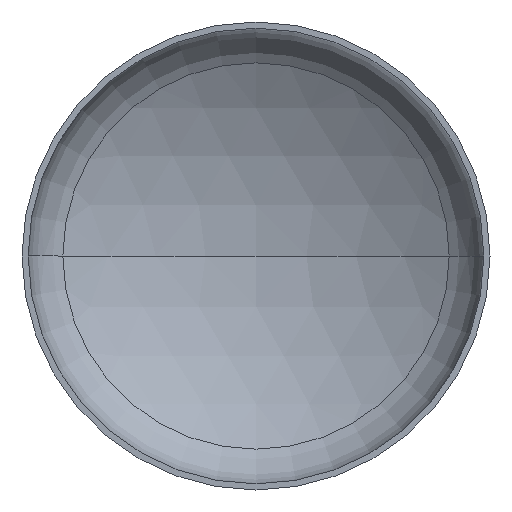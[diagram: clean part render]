
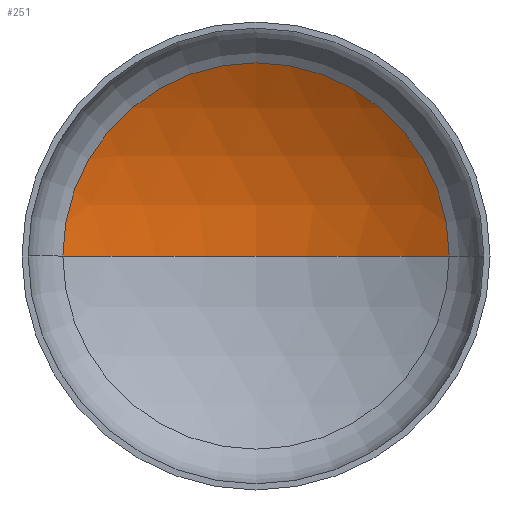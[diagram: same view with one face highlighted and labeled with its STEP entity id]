
A CAD part, front view. The second image highlights one B-rep face of the part: STEP entity #251.
In plain terms, the highlighted spherical face has radius 2560 mm.
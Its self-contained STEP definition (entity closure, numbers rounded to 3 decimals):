
#22 = AXIS2_PLACEMENT_3D ( 'NONE', #222, #380, #169 ) ;
#23 = EDGE_LOOP ( 'NONE', ( #102, #49, #41 ) ) ;
#25 = AXIS2_PLACEMENT_3D ( 'NONE', #196, #108, #361 ) ;
#26 = AXIS2_PLACEMENT_3D ( 'NONE', #166, #177, #345 ) ;
#33 = VERTEX_POINT ( 'NONE', #360 ) ;
#41 = ORIENTED_EDGE ( 'NONE', *, *, #339, .T. ) ;
#42 = AXIS2_PLACEMENT_3D ( 'NONE', #253, #381, #261 ) ;
#49 = ORIENTED_EDGE ( 'NONE', *, *, #346, .T. ) ;
#97 = VERTEX_POINT ( 'NONE', #328 ) ;
#102 = ORIENTED_EDGE ( 'NONE', *, *, #352, .F. ) ;
#108 = DIRECTION ( 'NONE',  ( 0., 0., 1. ) ) ;
#143 = VERTEX_POINT ( 'NONE', #343 ) ;
#166 = CARTESIAN_POINT ( 'NONE',  ( 0., 549.746, 0. ) ) ;
#167 = CIRCLE ( 'NONE', #25, 2560. ) ;
#169 = DIRECTION ( 'NONE',  ( -1., 0., 0. ) ) ;
#177 = DIRECTION ( 'NONE',  ( 0., -1., 0. ) ) ;
#196 = CARTESIAN_POINT ( 'NONE',  ( 0., -1643.211, 0. ) ) ;
#222 = CARTESIAN_POINT ( 'NONE',  ( 0., -1643.211, 0. ) ) ;
#240 = CIRCLE ( 'NONE', #26, 1320.812 ) ;
#251 = ADVANCED_FACE ( 'NONE', ( #374 ), #304, .F. ) ;
#253 = CARTESIAN_POINT ( 'NONE',  ( 0., -1643.211, 0. ) ) ;
#261 = DIRECTION ( 'NONE',  ( -1., 0., 0. ) ) ;
#282 = CIRCLE ( 'NONE', #22, 2560. ) ;
#304 = SPHERICAL_SURFACE ( 'NONE', #42, 2560. ) ;
#328 = CARTESIAN_POINT ( 'NONE',  ( 1320.812, 549.746, 0. ) ) ;
#339 = EDGE_CURVE ( 'NONE', #97, #143, #240, .T. ) ;
#343 = CARTESIAN_POINT ( 'NONE',  ( -1320.812, 549.746, 0. ) ) ;
#345 = DIRECTION ( 'NONE',  ( 1., 0., 0. ) ) ;
#346 = EDGE_CURVE ( 'NONE', #33, #97, #282, .T. ) ;
#352 = EDGE_CURVE ( 'NONE', #33, #143, #167, .T. ) ;
#360 = CARTESIAN_POINT ( 'NONE',  ( 0., 916.789, 0. ) ) ;
#361 = DIRECTION ( 'NONE',  ( 1., 0., 0. ) ) ;
#374 = FACE_OUTER_BOUND ( 'NONE', #23, .T. ) ;
#380 = DIRECTION ( 'NONE',  ( 0., 0., -1. ) ) ;
#381 = DIRECTION ( 'NONE',  ( 0., 0., -1. ) ) ;
